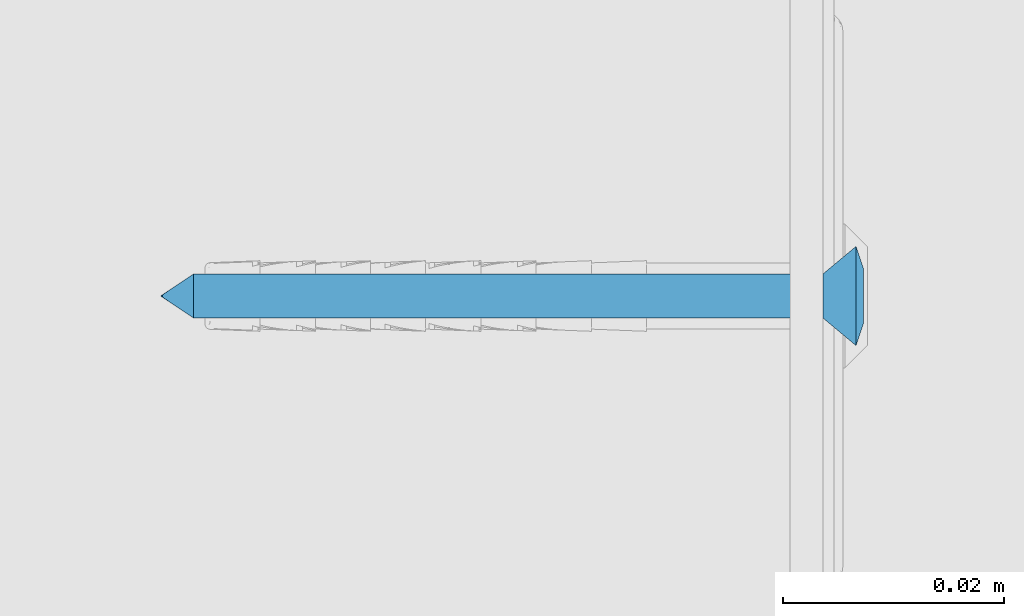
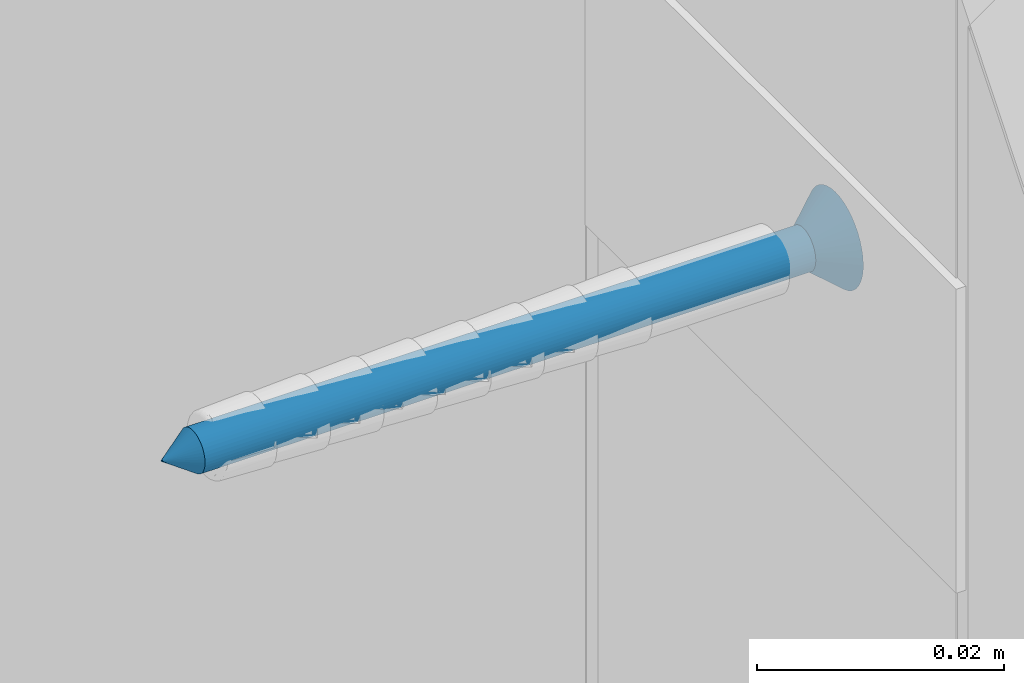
# One storey, part 31 of 62: 1 wall.
"""IFC2X3 building model written with IfcOpenShell, lengths in millimetres."""

from ifc_helpers import new_model, si_unit, frame, origin_with_axes, place, context, subcontext, project, spatial, faceted_brep, material, type_object, element, save


model = new_model("IFC2X3")

# Units and contexts
model_context = context("Model", 3, world=origin_with_axes())
body_context = subcontext(model_context, "Body", "Model", "MODEL_VIEW")
ifc_project = project(units=[si_unit("LENGTHUNIT", "METRE", prefix="MILLI"), si_unit("AREAUNIT", "SQUARE_METRE"), si_unit("VOLUMEUNIT", "CUBIC_METRE")], contexts=[model_context])

# Site, building, storey
site_placement = place(None, frame((2152.14102611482, -2015.0250894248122, 57.61556563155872), z_axis=(0.0, 0.0, 1.0), x_axis=(-1.1102230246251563e-16, 1.0, 0.0)))
site = spatial("IfcSite", under=ifc_project, at=site_placement, Name="Default Site", CompositionType="ELEMENT")
building_placement = place(site_placement, origin_with_axes())
building = spatial("IfcBuilding", under=site, at=building_placement, Name="Default Building", CompositionType="ELEMENT")
storey_placement = place(building_placement, origin_with_axes())
storey = spatial("IfcBuildingStorey", under=building, at=storey_placement, Name="Default Building Storey", CompositionType="ELEMENT", Elevation=57.61556563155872)

# Wall
ifc_material = material(Name="Default")
wall_type = type_object("IfcWallType", Name="Kołek rozporowy min. fi 6#35", PredefinedType="NOTDEFINED")
wall_placement = place(storey_placement, frame((5691.176283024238, 2016.3286110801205, 2697.56130269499), z_axis=(-6.858158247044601e-13, -1.0, 7.64238051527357e-14), x_axis=(-1.6476028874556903e-11, 7.642380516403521e-14, 1.0)))
element("IfcWall", 1, at=wall_placement, inside=storey, type_object=wall_type, material=ifc_material, Name="Kołek rozporowy min. fi 6", context=body_context, shape_type="Brep", body=[
    faceted_brep([(-1438.3141994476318, 3453.2833099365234, -0.46425670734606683), (-1435.8141422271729, 3453.2833099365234, -3.464256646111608), (-1435.7895851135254, 3452.970266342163, -3.464256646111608), (-1438.2587671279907, 3452.579259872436, -0.46425670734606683), (-1435.7162714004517, 3452.6650905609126, -3.464256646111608), (-1438.093900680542, 3451.892614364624, -0.46425670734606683), (-1435.5961084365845, 3452.3751735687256, -3.464256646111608), (-1437.8236532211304, 3451.240301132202, -0.46425670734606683), (-1435.4321956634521, 3452.107667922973, -3.464256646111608), (-1437.4547004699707, 3450.6382942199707, -0.46425670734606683), (-1435.22834777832, 3451.8690109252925, -3.464256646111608), (-1436.9961023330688, 3450.101137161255, -0.46425670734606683), (-1434.9896907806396, 3451.665163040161, -3.464256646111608), (-1436.4591836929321, 3449.642658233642, -0.46425670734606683), (-1434.7221851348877, 3451.501131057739, -3.464256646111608), (-1435.8570575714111, 3449.2735862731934, -0.46425670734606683), (-1434.4321489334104, 3451.381206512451, -3.464256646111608), (-1435.2047443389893, 3449.0034580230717, -0.46425670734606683), (-1434.1269731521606, 3451.307773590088, -3.464256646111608), (-1434.5180988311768, 3448.838710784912, -0.46425670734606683), (-1433.8141679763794, 3451.28321647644, -3.464256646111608), (-1433.8141679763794, 3448.7831592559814, -0.46425670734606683), (-1433.5012435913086, 3451.307773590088, -3.464256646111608), (-1433.110237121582, 3448.838710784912, -0.46425670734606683), (-1433.1960678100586, 3451.381206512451, -3.464256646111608), (-1432.4235916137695, 3449.0034580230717, -0.46425670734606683), (-1432.9061508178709, 3451.501131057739, -3.464256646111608), (-1431.771159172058, 3449.2735862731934, -0.46425670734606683), (-1432.6385259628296, 3451.665163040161, -3.464256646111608), (-1431.1691522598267, 3449.642658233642, -0.46425670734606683), (-1432.3999881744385, 3451.8690109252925, -3.464256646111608), (-1430.6321144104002, 3450.101137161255, -0.46425670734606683), (-1432.1961402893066, 3452.107667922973, -3.464256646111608), (-1430.1735162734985, 3450.6382942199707, -0.46425670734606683), (-1432.0321083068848, 3452.3751735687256, -3.464256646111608), (-1429.8045635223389, 3451.240301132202, -0.46425670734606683), (-1431.9120645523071, 3452.6650905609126, -3.464256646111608), (-1429.5344352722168, 3451.892614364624, -0.46425670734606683), (-1431.8387508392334, 3453.5961151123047, -3.464256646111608), (-1429.369568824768, 3453.9871215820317, -0.46425670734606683), (-1429.314136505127, 3453.2833099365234, -0.46425670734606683), (-1431.814193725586, 3453.2833099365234, -3.464256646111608), (-1429.369568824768, 3452.579259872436, -0.46425670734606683), (-1431.8387508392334, 3452.970266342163, -3.464256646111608), (-1431.9120645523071, 3453.9012908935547, -3.464256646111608), (-1429.5344352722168, 3454.6737670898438, -0.46425670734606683), (-1432.0321083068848, 3454.191207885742, -3.464256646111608), (-1429.8045635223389, 3455.3260803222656, -0.46425670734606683), (-1432.1961402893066, 3454.458713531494, -3.464256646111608), (-1430.1735162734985, 3455.9283256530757, -0.46425670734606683), (-1432.3999881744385, 3454.6973705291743, -3.464256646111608), (-1430.6321144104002, 3456.465244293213, -0.46425670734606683), (-1432.6385259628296, 3454.9012184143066, -3.464256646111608), (-1431.1691522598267, 3456.923723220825, -0.46425670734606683), (-1432.9061508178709, 3455.065250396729, -3.464256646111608), (-1431.771159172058, 3457.2927951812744, -0.46425670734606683), (-1433.1960678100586, 3455.1854133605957, -3.464256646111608), (-1432.4235916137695, 3457.562923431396, -0.46425670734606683), (-1433.5012435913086, 3455.25860786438, -3.464256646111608), (-1433.110237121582, 3457.7279090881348, -0.46425670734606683), (-1433.8141679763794, 3455.283164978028, -3.464256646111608), (-1433.8141679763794, 3457.7832221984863, -0.46425670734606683), (-1434.3430995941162, 3457.7519893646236, -0.46425670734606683), (-1434.1269731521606, 3455.25860786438, -3.464256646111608), (-1434.4321489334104, 3455.1854133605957, -3.464256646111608), (-1434.8646402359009, 3457.6590061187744, -0.46425670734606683), (-1435.3716373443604, 3457.504987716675, -0.46425670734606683), (-1434.7221851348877, 3455.065250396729, -3.464256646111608), (-1435.8570575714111, 3457.2927951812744, -0.46425670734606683), (-1434.9896907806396, 3454.9012184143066, -3.464256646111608), (-1435.22834777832, 3454.6973705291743, -3.464256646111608), (-1436.3142251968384, 3457.024812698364, -0.46425670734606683), (-1436.7367029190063, 3456.705093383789, -0.46425670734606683), (-1437.118649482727, 3456.337928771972, -0.46425670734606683), (-1437.4547004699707, 3455.9283256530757, -0.46425670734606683), (-1435.4321956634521, 3454.458713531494, -3.464256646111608), (-1435.5961084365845, 3454.191207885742, -3.464256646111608), (-1437.8236532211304, 3455.3260803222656, -0.46425670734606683), (-1435.7162714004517, 3453.9012908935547, -3.464256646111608), (-1438.093900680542, 3454.6737670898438, -0.46425670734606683), (-1435.7895851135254, 3453.5961151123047, -3.464256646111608), (-1438.2587671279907, 3453.9871215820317, -0.46425670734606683), (-1434.2052936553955, 3455.752372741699, 0.20073754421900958), (-1433.8141679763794, 3455.7831287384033, 0.20073754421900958), (-1434.5866441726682, 3455.6608200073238, 0.20073754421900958), (-1434.9491596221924, 3455.510854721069, 0.20073754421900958), (-1435.2836608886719, 3455.305814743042, 0.20073754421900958), (-1435.581922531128, 3455.0509452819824, 0.20073754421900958), (-1435.836672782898, 3454.7526836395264, 0.20073754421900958), (-1436.0417127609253, 3454.418182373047, 0.20073754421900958), (-1436.1917972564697, 3454.0557861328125, 0.20073754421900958), (-1436.2833499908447, 3453.6743164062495, 0.20073754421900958), (-1436.3141059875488, 3453.2833099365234, 0.20073754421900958), (-1436.2833499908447, 3452.8920650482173, 0.20073754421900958), (-1436.1917972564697, 3452.5105953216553, 0.20073754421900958), (-1436.0417127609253, 3452.148199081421, 0.20073754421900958), (-1435.836672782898, 3451.8136978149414, 0.20073754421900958), (-1435.581922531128, 3451.5154361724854, 0.20073754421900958), (-1435.2836608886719, 3451.260566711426, 0.20073754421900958), (-1434.9491596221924, 3451.0557651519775, 0.20073754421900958), (-1434.5866441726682, 3450.905561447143, 0.20073754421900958), (-1433.4230422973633, 3450.8140087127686, 0.20073754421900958), (-1433.8141679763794, 3450.7832527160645, 0.20073754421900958), (-1434.2052936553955, 3450.8140087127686, 0.20073754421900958), (-1433.0415725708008, 3450.905561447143, 0.20073754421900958), (-1432.6791763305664, 3451.0557651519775, 0.20073754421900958), (-1432.344675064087, 3451.260566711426, 0.20073754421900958), (-1432.0464134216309, 3451.5154361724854, 0.20073754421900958), (-1431.7916631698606, 3451.8136978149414, 0.20073754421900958), (-1431.5866231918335, 3452.148199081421, 0.20073754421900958), (-1431.436538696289, 3452.5105953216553, 0.20073754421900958), (-1431.344985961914, 3452.8920650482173, 0.20073754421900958), (-1431.3141107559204, 3453.2833099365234, 0.20073754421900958), (-1431.344985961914, 3453.6743164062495, 0.20073754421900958), (-1431.436538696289, 3454.0557861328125, 0.20073754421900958), (-1431.5866231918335, 3454.418182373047, 0.20073754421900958), (-1431.7916631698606, 3454.7526836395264, 0.20073754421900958), (-1432.0464134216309, 3455.0509452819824, 0.20073754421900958), (-1432.344675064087, 3455.305814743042, 0.20073754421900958), (-1432.6791763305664, 3455.510854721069, 0.20073754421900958), (-1433.0415725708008, 3455.6608200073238, 0.20073754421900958), (-1433.4230422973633, 3455.752372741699, 0.20073754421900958), (-1433.8141679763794, 3453.2833099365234, -63.46425414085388), (-1435.7895851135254, 3452.970266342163, -60.464255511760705), (-1435.8141422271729, 3453.2833099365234, -60.464255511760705), (-1435.7162714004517, 3452.6650905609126, -60.464255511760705), (-1435.5961084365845, 3452.3751735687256, -60.464255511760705), (-1435.4321956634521, 3452.107667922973, -60.464255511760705), (-1435.22834777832, 3451.8690109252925, -60.464255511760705), (-1434.9896907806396, 3451.665163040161, -60.464255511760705), (-1434.7221851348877, 3451.501131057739, -60.464255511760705), (-1434.4321489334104, 3451.381206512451, -60.464255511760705), (-1434.1269731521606, 3451.307773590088, -60.464255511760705), (-1433.8141679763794, 3451.28321647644, -60.464255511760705), (-1433.5012435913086, 3451.307773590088, -60.464255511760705), (-1433.1960678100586, 3451.381206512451, -60.464255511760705), (-1432.9061508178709, 3451.501131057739, -60.464255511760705), (-1432.6385259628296, 3451.665163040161, -60.464255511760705), (-1432.3999881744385, 3451.8690109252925, -60.464255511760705), (-1432.1961402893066, 3452.107667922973, -60.464255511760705), (-1432.0321083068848, 3452.3751735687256, -60.464255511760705), (-1431.9120645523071, 3452.6650905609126, -60.464255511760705), (-1431.8387508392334, 3452.970266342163, -60.464255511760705), (-1431.814193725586, 3453.2833099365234, -60.464255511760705), (-1431.8387508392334, 3453.5961151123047, -60.464255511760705), (-1431.9120645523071, 3453.9012908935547, -60.464255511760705), (-1432.0321083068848, 3454.191207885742, -60.464255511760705), (-1432.1961402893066, 3454.458713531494, -60.464255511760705), (-1432.3999881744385, 3454.6973705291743, -60.464255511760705), (-1432.6385259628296, 3454.9012184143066, -60.464255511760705), (-1432.9061508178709, 3455.065250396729, -60.464255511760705), (-1433.1960678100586, 3455.1854133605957, -60.464255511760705), (-1433.5012435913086, 3455.25860786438, -60.464255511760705), (-1433.8141679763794, 3455.283164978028, -60.464255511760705), (-1434.1269731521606, 3455.25860786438, -60.464255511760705), (-1434.4321489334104, 3455.1854133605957, -60.464255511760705), (-1434.7221851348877, 3455.065250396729, -60.464255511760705), (-1434.9896907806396, 3454.9012184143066, -60.464255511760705), (-1435.22834777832, 3454.6973705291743, -60.464255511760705), (-1435.4321956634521, 3454.458713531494, -60.464255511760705), (-1435.5961084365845, 3454.191207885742, -60.464255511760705), (-1435.7162714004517, 3453.9012908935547, -60.464255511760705), (-1435.7895851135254, 3453.5961151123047, -60.464255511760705), (-1436.0417127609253, 3454.418182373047, 0.049999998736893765), (-1436.1917972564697, 3454.0557861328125, 0.049999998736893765), (-1436.2833499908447, 3453.6743164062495, 0.049999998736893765), (-1436.3141059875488, 3453.2833099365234, 0.049999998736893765), (-1436.2833499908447, 3452.8920650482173, 0.049999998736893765), (-1436.1917972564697, 3452.5105953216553, 0.049999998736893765), (-1436.0417127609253, 3452.148199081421, 0.049999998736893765), (-1435.836672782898, 3451.8136978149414, 0.049999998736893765), (-1435.581922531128, 3451.5154361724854, 0.049999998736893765), (-1435.2836608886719, 3451.260566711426, 0.049999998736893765), (-1434.9491596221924, 3451.0557651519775, 0.049999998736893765), (-1434.5866441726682, 3450.905561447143, 0.049999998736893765), (-1434.2052936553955, 3450.8140087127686, 0.049999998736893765), (-1433.8141679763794, 3450.7832527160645, 0.049999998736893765), (-1433.4230422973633, 3450.8140087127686, 0.049999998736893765), (-1433.0415725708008, 3450.905561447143, 0.049999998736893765), (-1432.6791763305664, 3451.0557651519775, 0.049999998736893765), (-1432.344675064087, 3451.260566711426, 0.049999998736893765), (-1432.0464134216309, 3451.5154361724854, 0.049999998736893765), (-1431.7916631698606, 3451.8136978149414, 0.049999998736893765), (-1431.5866231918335, 3452.148199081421, 0.049999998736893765), (-1431.436538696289, 3452.5105953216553, 0.049999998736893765), (-1431.344985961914, 3452.8920650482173, 0.049999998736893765), (-1431.3141107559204, 3453.2833099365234, 0.049999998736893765), (-1431.344985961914, 3453.6743164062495, 0.049999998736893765), (-1431.436538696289, 3454.0557861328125, 0.049999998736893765), (-1431.5866231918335, 3454.418182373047, 0.049999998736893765), (-1431.7916631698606, 3454.7526836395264, 0.049999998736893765), (-1432.0464134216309, 3455.0509452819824, 0.049999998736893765), (-1432.344675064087, 3455.305814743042, 0.049999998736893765), (-1432.6791763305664, 3455.510854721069, 0.049999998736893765), (-1433.0415725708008, 3455.6608200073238, 0.049999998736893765), (-1433.4230422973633, 3455.752372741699, 0.049999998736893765), (-1433.8141679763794, 3455.7831287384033, 0.049999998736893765), (-1434.2052936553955, 3455.752372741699, 0.049999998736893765), (-1434.5866441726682, 3455.6608200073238, 0.049999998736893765), (-1434.9491596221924, 3455.510854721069, 0.049999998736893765), (-1435.2836608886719, 3455.305814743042, 0.049999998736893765), (-1435.581922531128, 3455.0509452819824, 0.049999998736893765), (-1435.836672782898, 3454.7526836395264, 0.049999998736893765), (-1434.3141317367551, 3452.7831077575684, 0.049999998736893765), (-1435.8141422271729, 3452.7831077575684, 0.049999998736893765), (-1435.8141422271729, 3453.7832736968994, 0.049999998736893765), (-1434.3141317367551, 3453.7832736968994, 0.049999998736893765), (-1434.3141317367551, 3455.283164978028, 0.049999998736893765), (-1433.3142042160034, 3455.283164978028, 0.049999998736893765), (-1433.3142042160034, 3453.7832736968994, 0.049999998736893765), (-1431.814193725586, 3453.7832736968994, 0.049999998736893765), (-1431.814193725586, 3452.7831077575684, 0.049999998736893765), (-1433.3142042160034, 3452.7831077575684, 0.049999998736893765), (-1433.3142042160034, 3451.28321647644, 0.049999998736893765), (-1434.3141317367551, 3451.28321647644, 0.049999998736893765), (-1434.3141317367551, 3452.7831077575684, -1.799262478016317), (-1434.3141317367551, 3451.28321647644, -1.799262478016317), (-1433.3142042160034, 3451.28321647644, -1.799262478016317), (-1433.3142042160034, 3452.7831077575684, -1.799262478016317), (-1431.814193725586, 3452.7831077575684, -1.799262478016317), (-1431.814193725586, 3453.7832736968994, -1.799262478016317), (-1433.3142042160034, 3453.7832736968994, -1.799262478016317), (-1433.3142042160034, 3455.283164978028, -1.799262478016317), (-1434.3141317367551, 3455.283164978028, -1.799262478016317), (-1434.3141317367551, 3453.7832736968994, -1.799262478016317), (-1435.8141422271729, 3453.7832736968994, -1.799262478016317), (-1435.8141422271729, 3452.7831077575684, -1.799262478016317)], [[[0, 1, 2, 3]], [[4, 5, 3, 2]], [[6, 7, 5, 4]], [[7, 6, 8, 9]], [[10, 11, 9, 8]], [[11, 10, 12, 13]], [[14, 15, 13, 12]], [[16, 17, 15, 14]], [[17, 16, 18, 19]], [[20, 21, 19, 18]], [[21, 20, 22, 23]], [[24, 25, 23, 22]], [[26, 27, 25, 24]], [[27, 26, 28, 29]], [[30, 31, 29, 28]], [[31, 30, 32, 33]], [[34, 35, 33, 32]], [[36, 37, 35, 34]], [[38, 39, 40, 41]], [[41, 40, 42, 43]], [[37, 36, 43, 42]], [[44, 45, 39, 38]], [[46, 47, 45, 44]], [[47, 46, 48, 49]], [[50, 51, 49, 48]], [[51, 50, 52, 53]], [[54, 55, 53, 52]], [[56, 57, 55, 54]], [[57, 56, 58, 59]], [[60, 61, 59, 58]], [[62, 61, 63]], [[61, 60, 63]], [[63, 64, 62]], [[64, 65, 62]], [[66, 65, 64]], [[64, 67, 66]], [[67, 68, 66]], [[69, 70, 71]], [[70, 72, 71]], [[71, 68, 69]], [[68, 67, 69]], [[70, 73, 72]], [[74, 73, 75]], [[73, 70, 75]], [[76, 77, 74, 75]], [[78, 79, 77, 76]], [[79, 78, 80, 81]], [[1, 0, 81, 80]], [[82, 83, 62]], [[83, 61, 62]], [[62, 65, 82]], [[65, 84, 82]], [[66, 68, 84]], [[68, 85, 84]], [[84, 65, 66]], [[86, 85, 71]], [[85, 68, 71]], [[72, 73, 87]], [[87, 86, 72]], [[86, 71, 72]], [[88, 87, 74]], [[87, 73, 74]], [[77, 89, 88, 74]], [[79, 90, 89, 77]], [[90, 79, 81, 91]], [[0, 92, 91, 81]], [[92, 0, 3, 93]], [[5, 94, 93, 3]], [[7, 95, 94, 5]], [[95, 7, 9, 96]], [[11, 97, 96, 9]], [[97, 11, 13, 98]], [[15, 99, 98, 13]], [[17, 100, 99, 15]], [[23, 101, 102, 21]], [[21, 102, 103, 19]], [[100, 17, 19, 103]], [[25, 104, 101, 23]], [[27, 105, 104, 25]], [[105, 27, 29, 106]], [[31, 107, 106, 29]], [[107, 31, 33, 108]], [[35, 109, 108, 33]], [[37, 110, 109, 35]], [[110, 37, 42, 111]], [[40, 112, 111, 42]], [[112, 40, 39, 113]], [[45, 114, 113, 39]], [[47, 115, 114, 45]], [[115, 47, 49, 116]], [[51, 117, 116, 49]], [[117, 51, 53, 118]], [[55, 119, 118, 53]], [[57, 120, 119, 55]], [[120, 57, 59, 121]], [[61, 83, 121, 59]], [[122, 123, 124]], [[122, 125, 123]], [[122, 126, 125]], [[127, 126, 122]], [[122, 128, 127]], [[129, 128, 122]], [[122, 130, 129]], [[122, 131, 130]], [[132, 131, 122]], [[122, 133, 132]], [[134, 133, 122]], [[122, 135, 134]], [[122, 136, 135]], [[137, 136, 122]], [[122, 138, 137]], [[139, 138, 122]], [[122, 140, 139]], [[122, 141, 140]], [[142, 141, 122]], [[122, 143, 142]], [[144, 143, 122]], [[122, 145, 144]], [[122, 146, 145]], [[147, 146, 122]], [[122, 148, 147]], [[149, 148, 122]], [[122, 150, 149]], [[122, 151, 150]], [[152, 151, 122]], [[122, 153, 152]], [[154, 153, 122]], [[122, 155, 154]], [[122, 156, 155]], [[157, 156, 122]], [[122, 158, 157]], [[159, 158, 122]], [[122, 160, 159]], [[122, 161, 160]], [[162, 161, 122]], [[124, 162, 122]], [[1, 124, 123, 2]], [[125, 4, 2, 123]], [[126, 6, 4, 125]], [[6, 126, 127, 8]], [[128, 10, 8, 127]], [[10, 128, 129, 12]], [[130, 14, 12, 129]], [[131, 16, 14, 130]], [[16, 131, 132, 18]], [[133, 20, 18, 132]], [[20, 133, 134, 22]], [[135, 24, 22, 134]], [[136, 26, 24, 135]], [[26, 136, 137, 28]], [[138, 30, 28, 137]], [[30, 138, 139, 32]], [[140, 34, 32, 139]], [[141, 36, 34, 140]], [[144, 38, 41, 143]], [[143, 41, 43, 142]], [[36, 141, 142, 43]], [[145, 44, 38, 144]], [[146, 46, 44, 145]], [[46, 146, 147, 48]], [[148, 50, 48, 147]], [[50, 148, 149, 52]], [[150, 54, 52, 149]], [[151, 56, 54, 150]], [[56, 151, 152, 58]], [[153, 60, 58, 152]], [[60, 153, 154, 63]], [[155, 64, 63, 154]], [[156, 67, 64, 155]], [[67, 156, 157, 69]], [[158, 70, 69, 157]], [[70, 158, 159, 75]], [[160, 76, 75, 159]], [[161, 78, 76, 160]], [[78, 161, 162, 80]], [[124, 1, 80, 162]], [[163, 164, 165, 166, 167, 168, 169, 170, 171, 172, 173, 174, 175, 176, 177, 178, 179, 180, 181, 182, 183, 184, 185, 186, 187, 188, 189, 190, 191, 192, 193, 194, 195, 196, 197, 198, 199, 200, 201, 202], [203, 204, 205, 206, 207, 208, 209, 210, 211, 212, 213, 214]], [[187, 186, 112, 113]], [[113, 114, 188, 187]], [[114, 115, 189, 188]], [[190, 189, 115, 116]], [[116, 117, 191, 190]], [[192, 191, 117, 118]], [[118, 119, 193, 192]], [[119, 120, 194, 193]], [[195, 194, 120, 121]], [[121, 83, 196, 195]], [[197, 196, 83, 82]], [[82, 84, 198, 197]], [[84, 85, 199, 198]], [[200, 199, 85, 86]], [[86, 87, 201, 200]], [[202, 201, 87, 88]], [[88, 89, 163, 202]], [[89, 90, 164, 163]], [[92, 93, 167, 166]], [[91, 92, 166, 165]], [[165, 164, 90, 91]], [[93, 94, 168, 167]], [[94, 95, 169, 168]], [[170, 169, 95, 96]], [[96, 97, 171, 170]], [[172, 171, 97, 98]], [[98, 99, 173, 172]], [[99, 100, 174, 173]], [[175, 174, 100, 103]], [[103, 102, 176, 175]], [[177, 176, 102, 101]], [[101, 104, 178, 177]], [[104, 105, 179, 178]], [[180, 179, 105, 106]], [[106, 107, 181, 180]], [[182, 181, 107, 108]], [[108, 109, 183, 182]], [[109, 110, 184, 183]], [[185, 184, 110, 111]], [[111, 112, 186, 185]], [[215, 216, 217, 218, 219, 220, 221, 222, 223, 224, 225, 226]], [[216, 214, 213, 217]], [[215, 203, 214, 216]], [[226, 204, 203, 215]], [[225, 205, 204, 226]], [[224, 206, 205, 225]], [[223, 207, 206, 224]], [[222, 208, 207, 223]], [[221, 209, 208, 222]], [[220, 210, 209, 221]], [[219, 211, 210, 220]], [[218, 212, 211, 219]], [[217, 213, 212, 218]]]),
])

save(model, "model.ifc")
